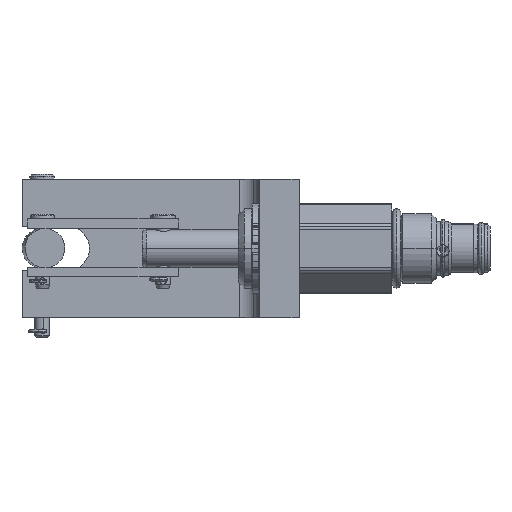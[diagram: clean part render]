
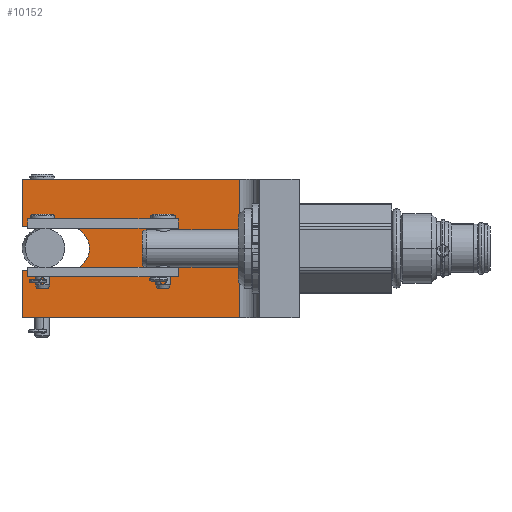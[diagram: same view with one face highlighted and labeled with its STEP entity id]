
A CAD part, front view. The second image highlights one B-rep face of the part: STEP entity #10152.
In plain terms, the highlighted planar face has unit normal (0, -1, 0).
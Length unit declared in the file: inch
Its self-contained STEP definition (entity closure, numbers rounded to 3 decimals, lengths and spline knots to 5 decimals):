
#9686=CARTESIAN_POINT('',(-1.922,1.35,0.875));
#9687=VERTEX_POINT('',#9686);
#9695=CARTESIAN_POINT('',(-1.922,1.35,-0.875));
#9696=VERTEX_POINT('',#9695);
#9697=CARTESIAN_POINT('',(-1.922,1.35,0.875));
#9698=DIRECTION('',(0.0,0.0,-1.0));
#9699=VECTOR('',#9698,1.75);
#9700=LINE('',#9697,#9699);
#9701=EDGE_CURVE('',#9687,#9696,#9700,.T.);
#9962=CARTESIAN_POINT('',(-3.821,1.35,0.));
#9963=VERTEX_POINT('',#9962);
#9979=CARTESIAN_POINT('',(-4.102,1.35,-0.281));
#9980=VERTEX_POINT('',#9979);
#9987=CARTESIAN_POINT('',(-4.102,1.35,0.));
#9988=DIRECTION('',(0.0,1.0,0.0));
#9989=DIRECTION('',(1.0,0.0,0.0));
#9990=AXIS2_PLACEMENT_3D('',#9987,#9988,#9989);
#9991=CIRCLE('',#9990,0.281);
#9992=EDGE_CURVE('',#9963,#9980,#9991,.T.);
#10003=CARTESIAN_POINT('',(-4.102,1.35,0.281));
#10004=VERTEX_POINT('',#10003);
#10005=CARTESIAN_POINT('',(-4.102,1.35,0.));
#10006=DIRECTION('',(0.0,1.0,0.0));
#10007=DIRECTION('',(1.0,0.0,0.0));
#10008=AXIS2_PLACEMENT_3D('',#10005,#10006,#10007);
#10009=CIRCLE('',#10008,0.281);
#10010=EDGE_CURVE('',#10004,#9963,#10009,.T.);
#10035=CARTESIAN_POINT('',(-4.672,1.35,-0.281));
#10036=VERTEX_POINT('',#10035);
#10037=CARTESIAN_POINT('',(-4.102,1.35,-0.281));
#10038=DIRECTION('',(-1.0,0.0,0.0));
#10039=VECTOR('',#10038,0.57);
#10040=LINE('',#10037,#10039);
#10041=EDGE_CURVE('',#9980,#10036,#10040,.T.);
#10076=CARTESIAN_POINT('',(-4.672,1.35,0.281));
#10077=VERTEX_POINT('',#10076);
#10078=CARTESIAN_POINT('',(-4.672,1.35,0.281));
#10079=DIRECTION('',(1.0,0.0,0.0));
#10080=VECTOR('',#10079,0.57);
#10081=LINE('',#10078,#10080);
#10082=EDGE_CURVE('',#10077,#10004,#10081,.T.);
#10112=CARTESIAN_POINT('',(-4.672,1.35,0.875));
#10113=DIRECTION('',(0.0,-1.0,0.0));
#10114=DIRECTION('',(0.0,0.0,-1.0));
#10115=AXIS2_PLACEMENT_3D('',#10112,#10113,#10114);
#10116=PLANE('',#10115);
#10117=ORIENTED_EDGE('',*,*,#10082,.T.);
#10118=ORIENTED_EDGE('',*,*,#10010,.T.);
#10119=ORIENTED_EDGE('',*,*,#9992,.T.);
#10120=ORIENTED_EDGE('',*,*,#10041,.T.);
#10121=CARTESIAN_POINT('',(-4.672,1.35,-0.875));
#10122=VERTEX_POINT('',#10121);
#10123=CARTESIAN_POINT('',(-4.672,1.35,-0.281));
#10124=DIRECTION('',(0.0,0.0,-1.0));
#10125=VECTOR('',#10124,0.594);
#10126=LINE('',#10123,#10125);
#10127=EDGE_CURVE('',#10036,#10122,#10126,.T.);
#10128=ORIENTED_EDGE('',*,*,#10127,.T.);
#10129=CARTESIAN_POINT('',(-4.672,1.35,-0.875));
#10130=DIRECTION('',(1.0,0.0,0.0));
#10131=VECTOR('',#10130,2.75);
#10132=LINE('',#10129,#10131);
#10133=EDGE_CURVE('',#10122,#9696,#10132,.T.);
#10134=ORIENTED_EDGE('',*,*,#10133,.T.);
#10135=ORIENTED_EDGE('',*,*,#9701,.F.);
#10136=CARTESIAN_POINT('',(-4.672,1.35,0.875));
#10137=VERTEX_POINT('',#10136);
#10138=CARTESIAN_POINT('',(-4.672,1.35,0.875));
#10139=DIRECTION('',(1.0,0.0,0.0));
#10140=VECTOR('',#10139,2.75);
#10141=LINE('',#10138,#10140);
#10142=EDGE_CURVE('',#10137,#9687,#10141,.T.);
#10143=ORIENTED_EDGE('',*,*,#10142,.F.);
#10144=CARTESIAN_POINT('',(-4.672,1.35,0.875));
#10145=DIRECTION('',(0.0,0.0,-1.0));
#10146=VECTOR('',#10145,0.594);
#10147=LINE('',#10144,#10146);
#10148=EDGE_CURVE('',#10137,#10077,#10147,.T.);
#10149=ORIENTED_EDGE('',*,*,#10148,.T.);
#10150=EDGE_LOOP('',(#10117,#10118,#10119,#10120,#10128,#10134,#10135,#10143,#10149));
#10151=FACE_OUTER_BOUND('',#10150,.T.);
#10152=ADVANCED_FACE('',(#10151),#10116,.T.);
